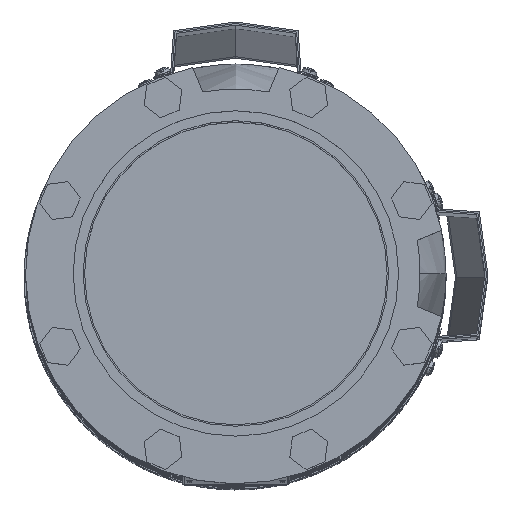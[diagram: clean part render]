
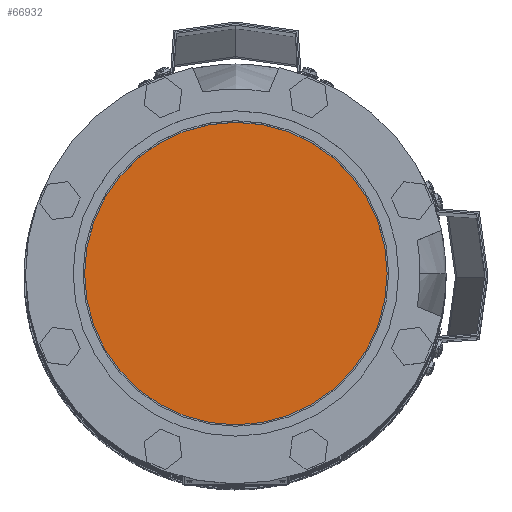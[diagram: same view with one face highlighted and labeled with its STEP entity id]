
A CAD part, top view. The second image highlights one B-rep face of the part: STEP entity #66932.
In plain terms, the highlighted planar face has unit normal (0, 0, 1) as drawn and (0, 1, 0) by its records, which use the part's own axes.
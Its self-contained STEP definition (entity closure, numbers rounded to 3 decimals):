
#624=CIRCLE('',#70538,102.5);
#625=CIRCLE('',#70539,102.5);
#16255=ORIENTED_EDGE('',*,*,#36519,.F.);
#16256=ORIENTED_EDGE('',*,*,#36520,.T.);
#36519=EDGE_CURVE('',#46651,#46652,#624,.T.);
#36520=EDGE_CURVE('',#46651,#46652,#625,.T.);
#46651=VERTEX_POINT('',#96544);
#46652=VERTEX_POINT('',#96545);
#54179=EDGE_LOOP('',(#16255,#16256));
#59042=FACE_BOUND('',#54179,.T.);
#63904=PLANE('',#70537);
#66932=ADVANCED_FACE('',(#59042),#63904,.T.);
#70537=AXIS2_PLACEMENT_3D('',#96542,#77098,#77099);
#70538=AXIS2_PLACEMENT_3D('',#96543,#77100,#77101);
#70539=AXIS2_PLACEMENT_3D('',#96546,#77102,#77103);
#77098=DIRECTION('',(0.,1.,0.));
#77099=DIRECTION('',(-1.,0.,0.));
#77100=DIRECTION('',(0.,-1.,0.));
#77101=DIRECTION('',(-1.,0.,0.));
#77102=DIRECTION('',(0.,1.,0.));
#77103=DIRECTION('',(-1.,0.,0.));
#96542=CARTESIAN_POINT('',(-109.56,216.5,0.));
#96543=CARTESIAN_POINT('',(0.,216.5,0.));
#96544=CARTESIAN_POINT('',(-102.5,216.5,0.));
#96545=CARTESIAN_POINT('',(102.5,216.5,0.));
#96546=CARTESIAN_POINT('',(0.,216.5,0.));
